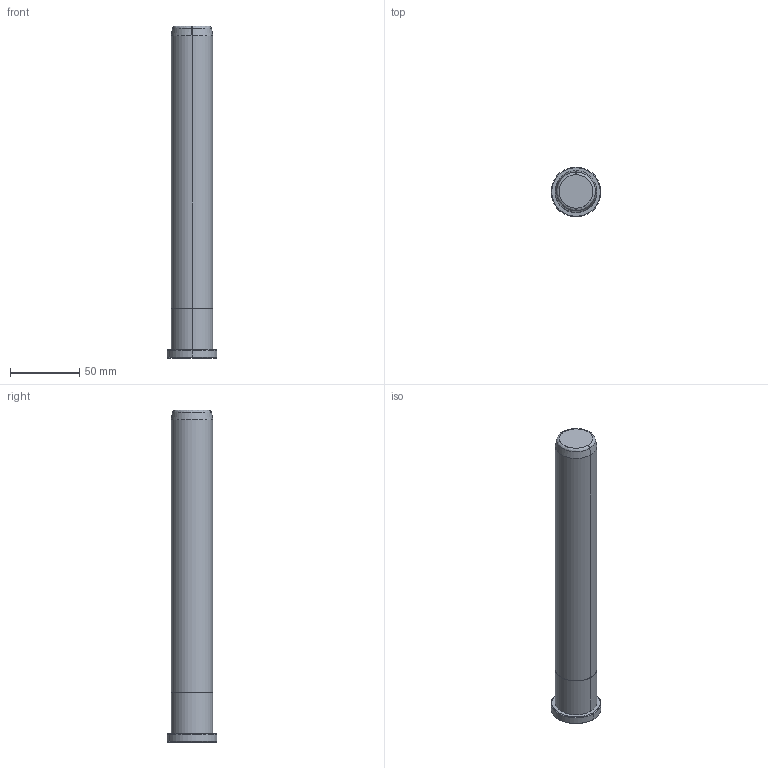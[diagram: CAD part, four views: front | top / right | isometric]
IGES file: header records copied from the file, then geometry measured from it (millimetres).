
Start section: START RECORD GO HERE.
Global section: file name: B82830240.igs; native system: DASSAULT SYSTEMES CATIA V5 R20 - www.3ds.com; preprocessor: CATIA Version 5 Release 20 ; author: Utente; organization: NB04-ASUS; date: 20200419.173252; units: millimetre
Bounding box: 36 x 36 x 240 mm (x, y, z)
Surface area: 24524.2 mm2 (no closed solid volume)
Topology: 0 solids, 0 shells, 20 faces, 80 edges, 80 vertices
Faces by surface type: revolution 16, plane 4
